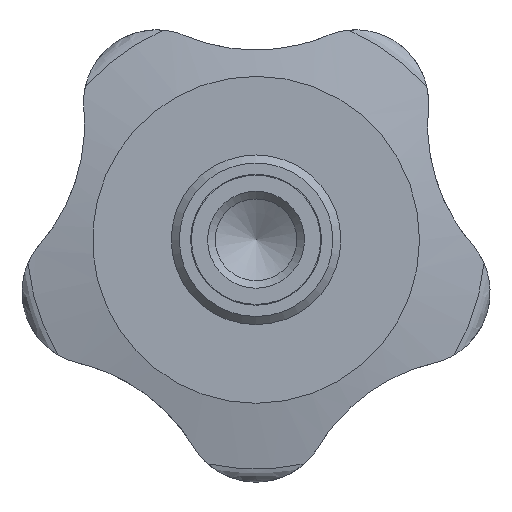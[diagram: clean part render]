
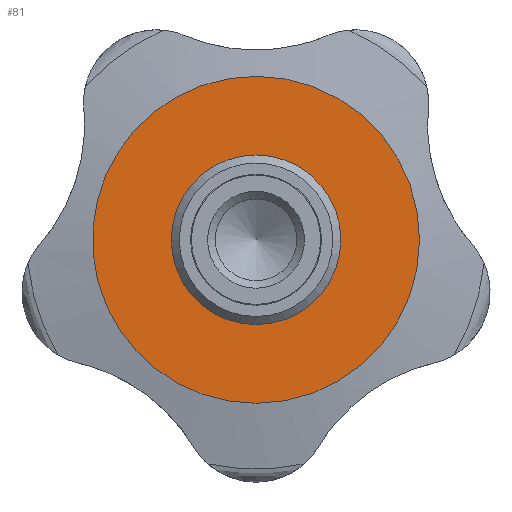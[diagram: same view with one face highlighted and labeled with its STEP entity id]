
A CAD part, front view. The second image highlights one B-rep face of the part: STEP entity #81.
In plain terms, the highlighted planar face has unit normal (0, -1, 0).
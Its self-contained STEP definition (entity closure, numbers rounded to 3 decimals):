
#81 = ADVANCED_FACE( '', ( #125, #126 ), #127, .F. );
#125 = FACE_BOUND( '', #241, .T. );
#126 = FACE_OUTER_BOUND( '', #242, .T. );
#127 = PLANE( '', #243 );
#241 = EDGE_LOOP( '', ( #357 ) );
#242 = EDGE_LOOP( '', ( #358 ) );
#243 = AXIS2_PLACEMENT_3D( '', #359, #360, #361 );
#357 = ORIENTED_EDGE( '', *, *, #596, .F. );
#358 = ORIENTED_EDGE( '', *, *, #597, .T. );
#359 = CARTESIAN_POINT( '', ( 20.24, 21., 0. ) );
#360 = DIRECTION( '', ( 0., 1., 0. ) );
#361 = DIRECTION( '', ( 0., 0., 1. ) );
#596 = EDGE_CURVE( '', #706, #706, #707, .T. );
#597 = EDGE_CURVE( '', #708, #708, #709, .T. );
#706 = VERTEX_POINT( '', #1021 );
#707 = CIRCLE( '', #1022, 10.5 );
#708 = VERTEX_POINT( '', #1023 );
#709 = CIRCLE( '', #1024, 20.24 );
#1021 = CARTESIAN_POINT( '', ( 0., 21., -10.5 ) );
#1022 = AXIS2_PLACEMENT_3D( '', #1486, #1487, #1488 );
#1023 = CARTESIAN_POINT( '', ( 0., 21., -20.24 ) );
#1024 = AXIS2_PLACEMENT_3D( '', #1489, #1490, #1491 );
#1486 = CARTESIAN_POINT( '', ( 0., 21., 0. ) );
#1487 = DIRECTION( '', ( 0., -1., 0. ) );
#1488 = DIRECTION( '', ( 0., 0., -1. ) );
#1489 = CARTESIAN_POINT( '', ( 0., 21., 0. ) );
#1490 = DIRECTION( '', ( 0., -1., 0. ) );
#1491 = DIRECTION( '', ( 0., 0., -1. ) );
